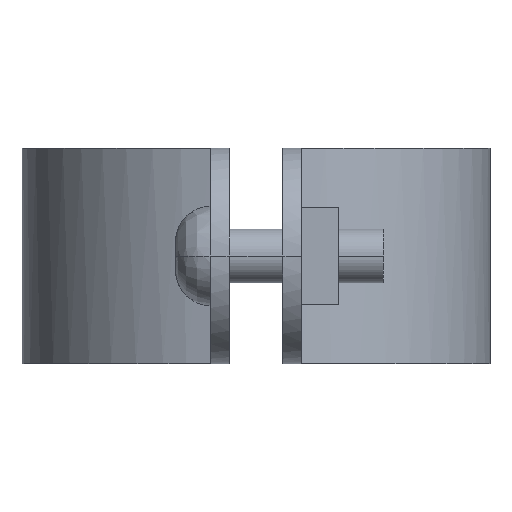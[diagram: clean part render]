
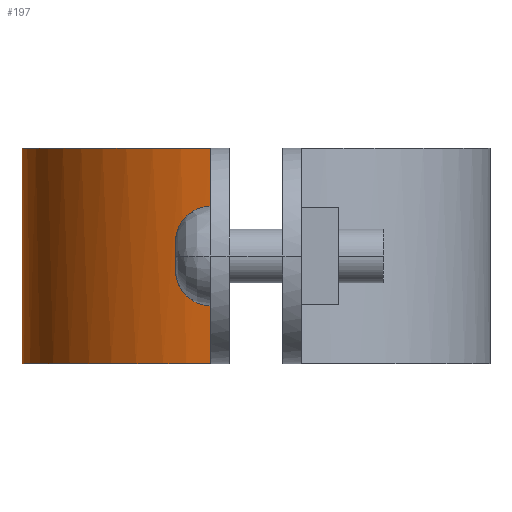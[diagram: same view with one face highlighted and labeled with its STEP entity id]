
A CAD part, left-side view. The second image highlights one B-rep face of the part: STEP entity #197.
In plain terms, the highlighted free-form (B-spline) face has degree [3, 1] with [4, 2] control points.
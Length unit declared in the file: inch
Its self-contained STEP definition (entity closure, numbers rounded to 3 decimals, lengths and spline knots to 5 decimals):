
#197=ADVANCED_FACE('',(#426),#427,.T.);
#426=FACE_OUTER_BOUND('',#888,.T.);
#427=B_SPLINE_SURFACE_WITH_KNOTS('',3,1,((#889,#890),(#891,#892),(#893,#894),(#895,#896)),.UNSPECIFIED.,.F.,.F.,.F.,(4,4),(2,2),(0.0,1.0),(0.0,1.25),.UNSPECIFIED.);
#888=EDGE_LOOP('',(#1546,#1547,#1548,#1549));
#889=CARTESIAN_POINT('',(2.06519,2.87759,0.0));
#890=CARTESIAN_POINT('',(2.06519,2.87759,1.25));
#891=CARTESIAN_POINT('',(1.41701,2.87759,0.0));
#892=CARTESIAN_POINT('',(1.41701,2.87759,1.25));
#893=CARTESIAN_POINT('',(0.85944,2.41892,0.0));
#894=CARTESIAN_POINT('',(0.85944,2.41892,1.25));
#895=CARTESIAN_POINT('',(0.73446,1.7829,0.0));
#896=CARTESIAN_POINT('',(0.73446,1.7829,1.25));
#1546=ORIENTED_EDGE('',*,*,#2122,.T.);
#1547=ORIENTED_EDGE('',*,*,#2123,.T.);
#1548=ORIENTED_EDGE('',*,*,#2124,.T.);
#1549=ORIENTED_EDGE('',*,*,#2125,.F.);
#2122=EDGE_CURVE('',#2472,#2473,#2474,.T.);
#2123=EDGE_CURVE('',#2473,#2475,#2476,.T.);
#2124=EDGE_CURVE('',#2475,#2477,#2478,.T.);
#2125=EDGE_CURVE('',#2472,#2477,#2479,.T.);
#2472=VERTEX_POINT('',#3062);
#2473=VERTEX_POINT('',#3063);
#2474=B_SPLINE_CURVE_WITH_KNOTS('',3,(#3064,#3065,#3066,#3067),.UNSPECIFIED.,.F.,.F.,(4,4),(0.0,1.0),.UNSPECIFIED.);
#2475=VERTEX_POINT('',#3068);
#2476=LINE('',#3069,#3070);
#2477=VERTEX_POINT('',#3071);
#2478=B_SPLINE_CURVE_WITH_KNOTS('',3,(#3072,#3073,#3074,#3075),.UNSPECIFIED.,.F.,.F.,(4,4),(-1.0,-0.0),.UNSPECIFIED.);
#2479=LINE('',#3076,#3077);
#3062=CARTESIAN_POINT('',(2.06519,2.87759,0.00011));
#3063=CARTESIAN_POINT('',(0.73446,1.7829,0.00011));
#3064=CARTESIAN_POINT('',(2.06519,2.87759,0.00011));
#3065=CARTESIAN_POINT('',(1.41701,2.87759,0.00011));
#3066=CARTESIAN_POINT('',(0.85944,2.41892,0.00011));
#3067=CARTESIAN_POINT('',(0.73446,1.7829,0.00011));
#3068=CARTESIAN_POINT('',(0.73446,1.7829,1.24989));
#3069=CARTESIAN_POINT('',(0.73446,1.7829,0.0));
#3070=VECTOR('',#3580,1.0);
#3071=CARTESIAN_POINT('',(2.06519,2.87759,1.24989));
#3072=CARTESIAN_POINT('',(0.73446,1.7829,1.24989));
#3073=CARTESIAN_POINT('',(0.85944,2.41892,1.24989));
#3074=CARTESIAN_POINT('',(1.41701,2.87759,1.24989));
#3075=CARTESIAN_POINT('',(2.06519,2.87759,1.24989));
#3076=CARTESIAN_POINT('',(2.06519,2.87759,0.0));
#3077=VECTOR('',#3581,1.0);
#3580=DIRECTION('',(0.0,0.0,1.0));
#3581=DIRECTION('',(0.0,0.0,1.0));
